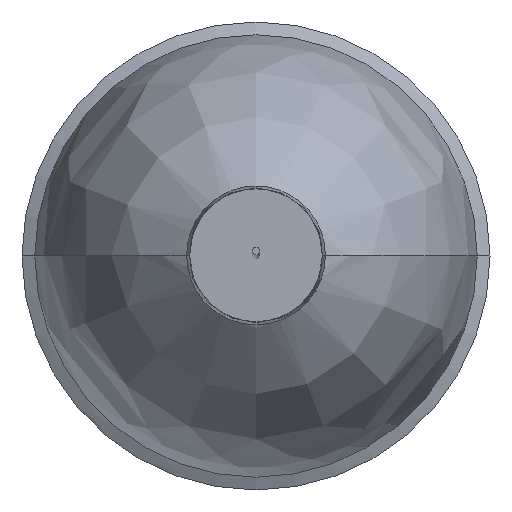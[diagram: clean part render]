
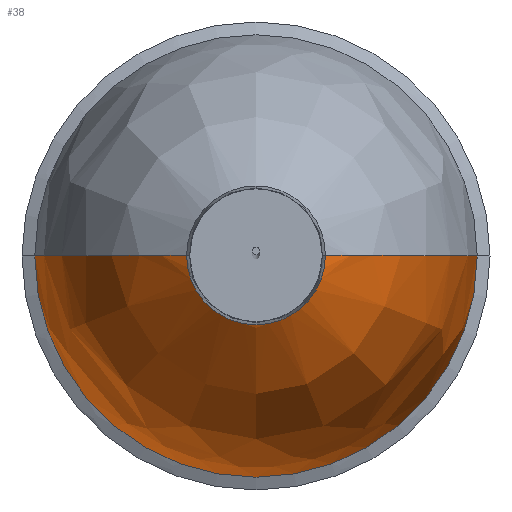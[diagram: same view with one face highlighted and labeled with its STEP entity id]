
A CAD part, top view. The second image highlights one B-rep face of the part: STEP entity #38.
In plain terms, the highlighted free-form (B-spline) face has degree [3, 2] with [11, 5] control points.
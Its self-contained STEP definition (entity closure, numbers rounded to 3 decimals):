
#21=(
BOUNDED_SURFACE()
B_SPLINE_SURFACE(3,2,((#485,#486,#487,#488,#489),(#490,#491,#492,#493,#494),
(#495,#496,#497,#498,#499),(#500,#501,#502,#503,#504),(#505,#506,#507,#508,
#509),(#510,#511,#512,#513,#514),(#515,#516,#517,#518,#519),(#520,#521,
#522,#523,#524),(#525,#526,#527,#528,#529),(#530,#531,#532,#533,#534),(#535,
#536,#537,#538,#539)),.UNSPECIFIED.,.F.,.F.,.F.)
B_SPLINE_SURFACE_WITH_KNOTS((4,3,1,3,4),(3,2,3),(24.773,25.941,
92.288,158.446,159.805),(0.,299.115,
598.23),.UNSPECIFIED.)
GEOMETRIC_REPRESENTATION_ITEM()
RATIONAL_B_SPLINE_SURFACE(((1.,0.707,1.,0.707,1.),
(1.,0.707,1.,0.707,1.),(1.,0.707,1.,
0.707,1.),(1.,0.707,1.,0.707,1.),(1.,
0.707,1.,0.707,1.),(1.,0.707,1.,0.707,
1.),(1.,0.707,1.,0.707,1.),(1.,0.707,
1.,0.707,1.),(1.,0.707,1.,0.707,1.),
(1.,0.707,1.,0.707,1.),(1.,0.707,1.,
0.707,1.)))
REPRESENTATION_ITEM('')
SURFACE()
);
#38=ADVANCED_FACE('',(#54),#21,.T.);
#54=FACE_OUTER_BOUND('',#70,.T.);
#70=EDGE_LOOP('',(#100,#101,#102,#103));
#100=ORIENTED_EDGE('',*,*,#149,.F.);
#101=ORIENTED_EDGE('',*,*,#148,.T.);
#102=ORIENTED_EDGE('',*,*,#150,.T.);
#103=ORIENTED_EDGE('',*,*,#157,.F.);
#148=EDGE_CURVE('',#225,#224,#172,.T.);
#149=EDGE_CURVE('',#225,#229,#184,.T.);
#150=EDGE_CURVE('',#224,#226,#185,.T.);
#157=EDGE_CURVE('',#229,#226,#175,.T.);
#172=(
BOUNDED_CURVE()
B_SPLINE_CURVE(3,(#658,#659,#660,#661,#662,#663,#664,#665,#666,#667,#668),
 .UNSPECIFIED.,.F.,.F.)
B_SPLINE_CURVE_WITH_KNOTS((4,3,1,3,4),(24.773,25.941,
92.288,158.446,159.805),.UNSPECIFIED.)
CURVE()
GEOMETRIC_REPRESENTATION_ITEM()
RATIONAL_B_SPLINE_CURVE((1.,1.,1.,1.,1.,1.,1.,1.,1.,1.,1.))
REPRESENTATION_ITEM('')
);
#175=(
BOUNDED_CURVE()
B_SPLINE_CURVE(3,(#695,#696,#697,#698,#699,#700,#701,#702,#703,#704,#705),
 .UNSPECIFIED.,.F.,.F.)
B_SPLINE_CURVE_WITH_KNOTS((4,3,1,3,4),(24.773,25.941,
92.288,158.446,159.805),.UNSPECIFIED.)
CURVE()
GEOMETRIC_REPRESENTATION_ITEM()
RATIONAL_B_SPLINE_CURVE((1.,1.,1.,1.,1.,1.,1.,1.,1.,1.,1.))
REPRESENTATION_ITEM('')
);
#184=TRIMMED_CURVE($,#204,(#670),(#671),.T.,.CARTESIAN.);
#185=TRIMMED_CURVE($,#205,(#673),(#674),.T.,.CARTESIAN.);
#204=CIRCLE('',#344,180.01);
#205=CIRCLE('',#345,56.455);
#224=VERTEX_POINT('',#638);
#225=VERTEX_POINT('',#639);
#226=VERTEX_POINT('',#640);
#229=VERTEX_POINT('',#643);
#344=AXIS2_PLACEMENT_3D($,#669,#383,#384);
#345=AXIS2_PLACEMENT_3D($,#672,#385,#386);
#383=DIRECTION('',(0.,0.,-1.));
#384=DIRECTION('',(1.,0.,0.));
#385=DIRECTION('',(0.,0.,-1.));
#386=DIRECTION('',(1.,0.,0.));
#485=CARTESIAN_POINT('',(180.01,0.,-337.495));
#486=CARTESIAN_POINT('',(180.01,-180.01,-337.495));
#487=CARTESIAN_POINT('',(0.,-180.01,-337.495));
#488=CARTESIAN_POINT('',(-180.01,-180.01,-337.495));
#489=CARTESIAN_POINT('',(-180.01,0.,-337.495));
#490=CARTESIAN_POINT('',(180.003,0.,-336.227));
#491=CARTESIAN_POINT('',(180.003,-180.003,-336.227));
#492=CARTESIAN_POINT('',(0.,-180.003,-336.227));
#493=CARTESIAN_POINT('',(-180.003,-180.003,-336.227));
#494=CARTESIAN_POINT('',(-180.003,0.,-336.227));
#495=CARTESIAN_POINT('',(179.997,0.,-334.96));
#496=CARTESIAN_POINT('',(179.997,-179.997,-334.96));
#497=CARTESIAN_POINT('',(0.,-179.997,-334.96));
#498=CARTESIAN_POINT('',(-179.997,-179.997,-334.96));
#499=CARTESIAN_POINT('',(-179.997,0.,-334.96));
#500=CARTESIAN_POINT('',(179.99,0.,-333.693));
#501=CARTESIAN_POINT('',(179.99,-179.99,-333.693));
#502=CARTESIAN_POINT('',(0.,-179.99,-333.693));
#503=CARTESIAN_POINT('',(-179.99,-179.99,-333.693));
#504=CARTESIAN_POINT('',(-179.99,0.,-333.693));
#505=CARTESIAN_POINT('',(179.627,0.,-261.717));
#506=CARTESIAN_POINT('',(179.627,-179.627,-261.717));
#507=CARTESIAN_POINT('',(0.,-179.627,-261.717));
#508=CARTESIAN_POINT('',(-179.627,-179.627,-261.717));
#509=CARTESIAN_POINT('',(-179.627,0.,-261.717));
#510=CARTESIAN_POINT('',(158.176,0.,-152.415));
#511=CARTESIAN_POINT('',(158.176,-158.176,-152.415));
#512=CARTESIAN_POINT('',(0.,-158.176,-152.415));
#513=CARTESIAN_POINT('',(-158.176,-158.175,-152.415));
#514=CARTESIAN_POINT('',(-158.176,0.,-152.415));
#515=CARTESIAN_POINT('',(101.19,0.,-82.264));
#516=CARTESIAN_POINT('',(101.19,-101.19,-82.264));
#517=CARTESIAN_POINT('',(0.,-101.19,-82.264));
#518=CARTESIAN_POINT('',(-101.19,-101.19,-82.264));
#519=CARTESIAN_POINT('',(-101.19,0.,-82.264));
#520=CARTESIAN_POINT('',(59.051,0.,-57.728));
#521=CARTESIAN_POINT('',(59.051,-59.051,-57.728));
#522=CARTESIAN_POINT('',(0.,-59.051,-57.728));
#523=CARTESIAN_POINT('',(-59.051,-59.051,-57.728));
#524=CARTESIAN_POINT('',(-59.051,0.,-57.728));
#525=CARTESIAN_POINT('',(58.186,0.,-57.224));
#526=CARTESIAN_POINT('',(58.186,-58.186,-57.224));
#527=CARTESIAN_POINT('',(0.,-58.186,-57.224));
#528=CARTESIAN_POINT('',(-58.186,-58.186,-57.224));
#529=CARTESIAN_POINT('',(-58.186,0.,-57.224));
#530=CARTESIAN_POINT('',(57.32,0.,-56.72));
#531=CARTESIAN_POINT('',(57.32,-57.32,-56.72));
#532=CARTESIAN_POINT('',(0.,-57.32,-56.72));
#533=CARTESIAN_POINT('',(-57.32,-57.32,-56.72));
#534=CARTESIAN_POINT('',(-57.32,0.,-56.72));
#535=CARTESIAN_POINT('',(56.455,0.,-56.216));
#536=CARTESIAN_POINT('',(56.455,-56.455,-56.216));
#537=CARTESIAN_POINT('',(0.,-56.455,-56.216));
#538=CARTESIAN_POINT('',(-56.455,-56.455,-56.216));
#539=CARTESIAN_POINT('',(-56.455,0.,-56.216));
#638=CARTESIAN_POINT('',(56.455,0.,-56.216));
#639=CARTESIAN_POINT('',(180.01,0.,-337.495));
#640=CARTESIAN_POINT('',(-56.455,0.,-56.216));
#643=CARTESIAN_POINT('',(-180.01,0.,-337.495));
#658=CARTESIAN_POINT('',(180.01,0.,-337.495));
#659=CARTESIAN_POINT('',(180.003,0.,-336.227));
#660=CARTESIAN_POINT('',(179.997,0.,-334.96));
#661=CARTESIAN_POINT('',(179.99,0.,-333.693));
#662=CARTESIAN_POINT('',(179.627,0.,-261.717));
#663=CARTESIAN_POINT('',(158.176,0.,-152.415));
#664=CARTESIAN_POINT('',(101.19,0.,-82.264));
#665=CARTESIAN_POINT('',(59.051,0.,-57.728));
#666=CARTESIAN_POINT('',(58.186,0.,-57.224));
#667=CARTESIAN_POINT('',(57.32,0.,-56.72));
#668=CARTESIAN_POINT('',(56.455,0.,-56.216));
#669=CARTESIAN_POINT('',(0.,0.,-337.495));
#670=CARTESIAN_POINT('',(180.01,0.,-337.495));
#671=CARTESIAN_POINT('',(-180.01,0.,-337.495));
#672=CARTESIAN_POINT('',(0.,0.,-56.216));
#673=CARTESIAN_POINT('',(56.455,0.,-56.216));
#674=CARTESIAN_POINT('',(-56.455,0.,-56.216));
#695=CARTESIAN_POINT('',(-180.01,0.,-337.495));
#696=CARTESIAN_POINT('',(-180.003,0.,-336.227));
#697=CARTESIAN_POINT('',(-179.997,0.,-334.96));
#698=CARTESIAN_POINT('',(-179.99,0.,-333.693));
#699=CARTESIAN_POINT('',(-179.627,0.,-261.717));
#700=CARTESIAN_POINT('',(-158.176,0.,-152.415));
#701=CARTESIAN_POINT('',(-101.19,0.,-82.264));
#702=CARTESIAN_POINT('',(-59.051,0.,-57.728));
#703=CARTESIAN_POINT('',(-58.186,0.,-57.224));
#704=CARTESIAN_POINT('',(-57.32,0.,-56.72));
#705=CARTESIAN_POINT('',(-56.455,0.,-56.216));
